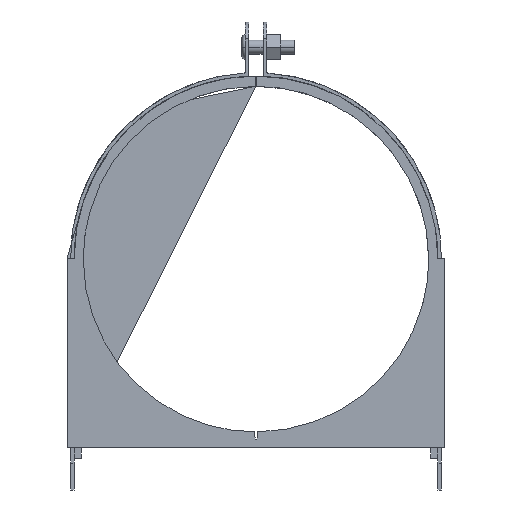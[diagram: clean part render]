
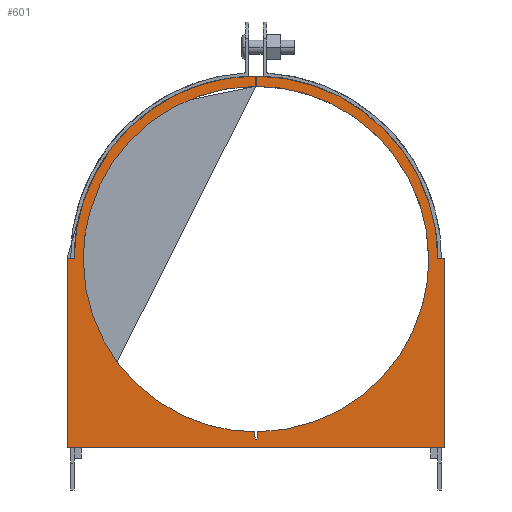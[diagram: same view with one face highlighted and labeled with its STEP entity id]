
A CAD part, front view. The second image highlights one B-rep face of the part: STEP entity #601.
In plain terms, the highlighted planar face has unit normal (0, -1, 0).
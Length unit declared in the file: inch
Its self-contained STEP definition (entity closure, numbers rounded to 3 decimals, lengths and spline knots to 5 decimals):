
#601=ADVANCED_FACE('',(#1400),#1401,.T.);
#1400=FACE_OUTER_BOUND('',#2760,.T.);
#1401=PLANE('',#2761);
#2760=EDGE_LOOP('',(#4284,#4285,#4286,#4287,#4288,#4289,#4290,#4291,#4292,#4293,#4294,#4295,#4296,#4297,#4298,#4299,#4300));
#2761=AXIS2_PLACEMENT_3D('',#4301,#4302,#4303);
#4284=ORIENTED_EDGE('',*,*,#5335,.F.);
#4285=ORIENTED_EDGE('',*,*,#5336,.F.);
#4286=ORIENTED_EDGE('',*,*,#5337,.F.);
#4287=ORIENTED_EDGE('',*,*,#5338,.F.);
#4288=ORIENTED_EDGE('',*,*,#5167,.F.);
#4289=ORIENTED_EDGE('',*,*,#5327,.F.);
#4290=ORIENTED_EDGE('',*,*,#5246,.F.);
#4291=ORIENTED_EDGE('',*,*,#5331,.F.);
#4292=ORIENTED_EDGE('',*,*,#5339,.F.);
#4293=ORIENTED_EDGE('',*,*,#5340,.F.);
#4294=ORIENTED_EDGE('',*,*,#5177,.F.);
#4295=ORIENTED_EDGE('',*,*,#5341,.F.);
#4296=ORIENTED_EDGE('',*,*,#5342,.F.);
#4297=ORIENTED_EDGE('',*,*,#5343,.F.);
#4298=ORIENTED_EDGE('',*,*,#5276,.F.);
#4299=ORIENTED_EDGE('',*,*,#5264,.F.);
#4300=ORIENTED_EDGE('',*,*,#5287,.F.);
#4301=CARTESIAN_POINT('',(3.28495,-0.125,3.79973));
#4302=DIRECTION('',(0.0,-1.0,0.0));
#4303=DIRECTION('',(1.0,0.0,0.0));
#5167=EDGE_CURVE('',#5556,#5557,#5558,.T.);
#5177=EDGE_CURVE('',#5570,#5571,#5572,.T.);
#5246=EDGE_CURVE('',#5681,#5682,#5683,.T.);
#5264=EDGE_CURVE('',#5709,#5711,#5712,.T.);
#5276=EDGE_CURVE('',#5711,#5732,#5733,.T.);
#5287=EDGE_CURVE('',#5747,#5709,#5748,.T.);
#5327=EDGE_CURVE('',#5682,#5556,#5803,.T.);
#5331=EDGE_CURVE('',#5807,#5681,#5808,.T.);
#5335=EDGE_CURVE('',#5813,#5747,#5814,.T.);
#5336=EDGE_CURVE('',#5815,#5813,#5816,.T.);
#5337=EDGE_CURVE('',#5817,#5815,#5818,.T.);
#5338=EDGE_CURVE('',#5557,#5817,#5819,.T.);
#5339=EDGE_CURVE('',#5820,#5807,#5821,.T.);
#5340=EDGE_CURVE('',#5571,#5820,#5822,.T.);
#5341=EDGE_CURVE('',#5823,#5570,#5824,.T.);
#5342=EDGE_CURVE('',#5825,#5823,#5826,.T.);
#5343=EDGE_CURVE('',#5732,#5825,#5827,.T.);
#5556=VERTEX_POINT('',#6120);
#5557=VERTEX_POINT('',#6121);
#5558=B_SPLINE_CURVE_WITH_KNOTS('',3,(#6122,#6123,#6124,#6125),.UNSPECIFIED.,.F.,.F.,(4,4),(0.0,1.0),.UNSPECIFIED.);
#5570=VERTEX_POINT('',#6146);
#5571=VERTEX_POINT('',#6147);
#5572=B_SPLINE_CURVE_WITH_KNOTS('',3,(#6148,#6149,#6150,#6151),.UNSPECIFIED.,.F.,.F.,(4,4),(0.0,1.0),.UNSPECIFIED.);
#5681=VERTEX_POINT('',#6372);
#5682=VERTEX_POINT('',#6373);
#5683=LINE('',#6374,#6375);
#5709=VERTEX_POINT('',#6419);
#5711=VERTEX_POINT('',#6422);
#5712=LINE('',#6423,#6424);
#5732=VERTEX_POINT('',#6454);
#5733=LINE('',#6455,#6456);
#5747=VERTEX_POINT('',#6501);
#5748=LINE('',#6502,#6503);
#5803=LINE('',#6598,#6599);
#5807=VERTEX_POINT('',#6604);
#5808=LINE('',#6605,#6606);
#5813=VERTEX_POINT('',#6613);
#5814=LINE('',#6614,#6615);
#5815=VERTEX_POINT('',#6616);
#5816=B_SPLINE_CURVE_WITH_KNOTS('',3,(#6617,#6618,#6619,#6620),.UNSPECIFIED.,.F.,.F.,(4,4),(0.0,1.0),.UNSPECIFIED.);
#5817=VERTEX_POINT('',#6621);
#5818=LINE('',#6622,#6623);
#5819=B_SPLINE_CURVE_WITH_KNOTS('',3,(#6624,#6625,#6626,#6627),.UNSPECIFIED.,.F.,.F.,(4,4),(0.0,1.0),.UNSPECIFIED.);
#5820=VERTEX_POINT('',#6628);
#5821=LINE('',#6629,#6630);
#5822=B_SPLINE_CURVE_WITH_KNOTS('',3,(#6631,#6632,#6633,#6634),.UNSPECIFIED.,.F.,.F.,(4,4),(0.0,1.0),.UNSPECIFIED.);
#5823=VERTEX_POINT('',#6635);
#5824=LINE('',#6636,#6637);
#5825=VERTEX_POINT('',#6638);
#5826=B_SPLINE_CURVE_WITH_KNOTS('',3,(#6639,#6640,#6641,#6642),.UNSPECIFIED.,.F.,.F.,(4,4),(0.0,1.0),.UNSPECIFIED.);
#5827=LINE('',#6643,#6644);
#6120=CARTESIAN_POINT('',(3.31256,-0.125,1.03056));
#6121=CARTESIAN_POINT('',(6.34488,-0.125,4.0902));
#6122=CARTESIAN_POINT('',(3.31256,-0.125,1.03056));
#6123=CARTESIAN_POINT('',(4.98986,-0.125,1.04533));
#6124=CARTESIAN_POINT('',(6.34488,-0.125,2.4094));
#6125=CARTESIAN_POINT('',(6.34488,-0.125,4.0902));
#6146=CARTESIAN_POINT('',(3.27927,-0.125,7.15026));
#6147=CARTESIAN_POINT('',(0.22488,-0.125,4.0902));
#6148=CARTESIAN_POINT('',(3.27927,-0.125,7.15026));
#6149=CARTESIAN_POINT('',(1.59187,-0.125,7.14721));
#6150=CARTESIAN_POINT('',(0.22488,-0.125,5.77831));
#6151=CARTESIAN_POINT('',(0.22488,-0.125,4.0902));
#6372=CARTESIAN_POINT('',(3.28508,-0.125,0.89889));
#6373=CARTESIAN_POINT('',(3.3015,-0.125,0.90335));
#6374=CARTESIAN_POINT('',(3.28508,-0.125,0.89889));
#6375=VECTOR('',#7016,1.);
#6419=CARTESIAN_POINT('',(6.63237,-0.125,0.75));
#6422=CARTESIAN_POINT('',(-0.06246,-0.125,0.75));
#6423=CARTESIAN_POINT('',(6.63237,-0.125,0.75));
#6424=VECTOR('',#7030,1.0);
#6454=CARTESIAN_POINT('',(-0.06246,-0.125,4.10036));
#6455=CARTESIAN_POINT('',(-0.06246,-0.125,0.75));
#6456=VECTOR('',#7041,1.0);
#6501=CARTESIAN_POINT('',(6.63237,-0.125,4.10036));
#6502=CARTESIAN_POINT('',(6.63237,-0.125,4.10036));
#6503=VECTOR('',#7046,1.0);
#6598=CARTESIAN_POINT('',(3.3015,-0.125,0.90335));
#6599=VECTOR('',#7066,1.);
#6604=CARTESIAN_POINT('',(3.27018,-0.125,0.90335));
#6605=CARTESIAN_POINT('',(3.27018,-0.125,0.90335));
#6606=VECTOR('',#7068,1.);
#6613=CARTESIAN_POINT('',(6.50725,-0.125,4.1004));
#6614=CARTESIAN_POINT('',(6.50725,-0.125,4.1004));
#6615=VECTOR('',#7071,1.);
#6616=CARTESIAN_POINT('',(3.2905,-0.125,7.33214));
#6617=CARTESIAN_POINT('',(3.2905,-0.125,7.33214));
#6618=CARTESIAN_POINT('',(5.0641,-0.125,7.32933));
#6619=CARTESIAN_POINT('',(6.50163,-0.125,5.87341));
#6620=CARTESIAN_POINT('',(6.50725,-0.125,4.1004));
#6621=CARTESIAN_POINT('',(3.29061,-0.125,7.15026));
#6622=CARTESIAN_POINT('',(3.29061,-0.125,7.15026));
#6623=VECTOR('',#7072,1.);
#6624=CARTESIAN_POINT('',(6.34488,-0.125,4.0902));
#6625=CARTESIAN_POINT('',(6.34488,-0.125,5.77831));
#6626=CARTESIAN_POINT('',(4.978,-0.125,7.14721));
#6627=CARTESIAN_POINT('',(3.29061,-0.125,7.15026));
#6628=CARTESIAN_POINT('',(3.25582,-0.125,1.03057));
#6629=CARTESIAN_POINT('',(3.25582,-0.125,1.03057));
#6630=VECTOR('',#7073,1.);
#6631=CARTESIAN_POINT('',(0.22488,-0.125,4.0902));
#6632=CARTESIAN_POINT('',(0.22488,-0.125,2.40993));
#6633=CARTESIAN_POINT('',(1.57925,-0.125,1.0462));
#6634=CARTESIAN_POINT('',(3.25582,-0.125,1.03057));
#6635=CARTESIAN_POINT('',(3.27912,-0.125,7.33214));
#6636=CARTESIAN_POINT('',(3.27912,-0.125,7.33214));
#6637=VECTOR('',#7074,1.);
#6638=CARTESIAN_POINT('',(0.06286,-0.125,4.10038));
#6639=CARTESIAN_POINT('',(0.06286,-0.125,4.10038));
#6640=CARTESIAN_POINT('',(0.06844,-0.125,5.8731));
#6641=CARTESIAN_POINT('',(1.50596,-0.125,7.32881));
#6642=CARTESIAN_POINT('',(3.27912,-0.125,7.33214));
#6643=CARTESIAN_POINT('',(-0.06246,-0.125,4.10036));
#6644=VECTOR('',#7075,1.);
#7016=DIRECTION('',(0.965,0.0,0.262));
#7030=DIRECTION('',(-1.0,0.0,0.0));
#7041=DIRECTION('',(0.0,0.0,1.0));
#7046=DIRECTION('',(0.0,0.0,-1.0));
#7066=DIRECTION('',(0.087,0.0,0.996));
#7068=DIRECTION('',(0.958,0.0,-0.287));
#7071=DIRECTION('',(1.,0.0,0.));
#7072=DIRECTION('',(-0.001,0.0,1.));
#7073=DIRECTION('',(0.112,0.0,-0.994));
#7074=DIRECTION('',(0.001,0.0,-1.));
#7075=DIRECTION('',(1.,0.0,0.));
